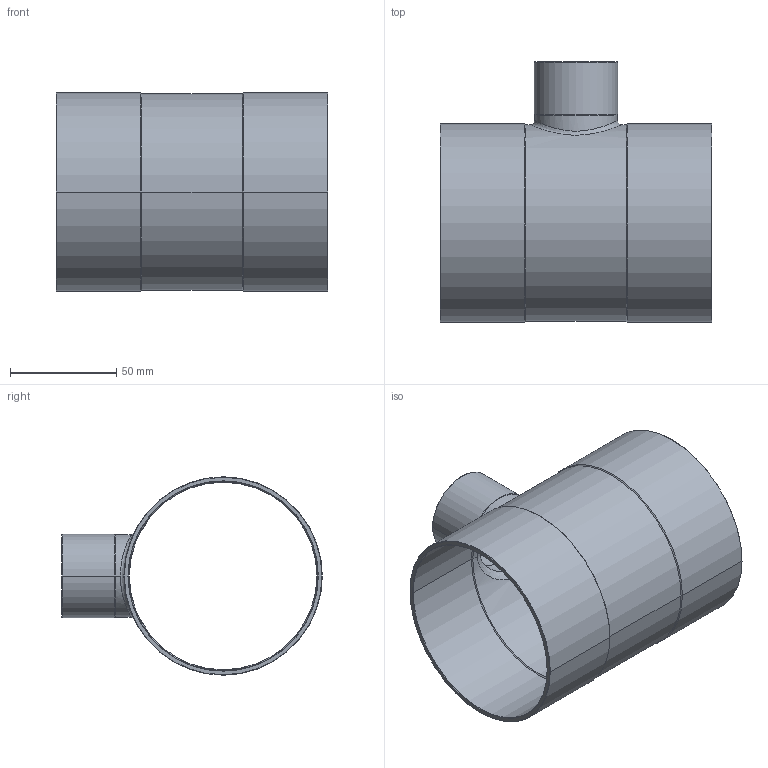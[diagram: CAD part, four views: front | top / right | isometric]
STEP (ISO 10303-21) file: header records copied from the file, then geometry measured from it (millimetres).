
FILE_DESCRIPTION((''),'2;1');
FILE_NAME('G:\Technics\CAD\Bauteile\15130\15130893589.stp','2005-11-02T10:20:03',('boden'),(''),'Autodesk Inventor 8','Autodesk Inventor 8','');
FILE_SCHEMA(('AUTOMOTIVE_DESIGN { 1 0 10303 214 1 1 1 1 }'));
Length unit declared in the file: millimetre
Products named in the file (1): 15130893589
Bounding box: 128 x 122.7 x 93.4 mm (x, y, z)
Volume: 82558.1 mm3; surface area: 79934.2 mm2
Topology: 1 solids, 1 shells, 49 faces, 108 edges, 60 vertices
Faces by surface type: cone 24, cylinder 20, plane 3, bspline 2
Entity records: 1705 total; most frequent: CARTESIAN_POINT 598, DIRECTION 242, ORIENTED_EDGE 216, EDGE_CURVE 108, AXIS2_PLACEMENT_3D 98, VERTEX_POINT 60, EDGE_LOOP 52, CIRCLE 50
